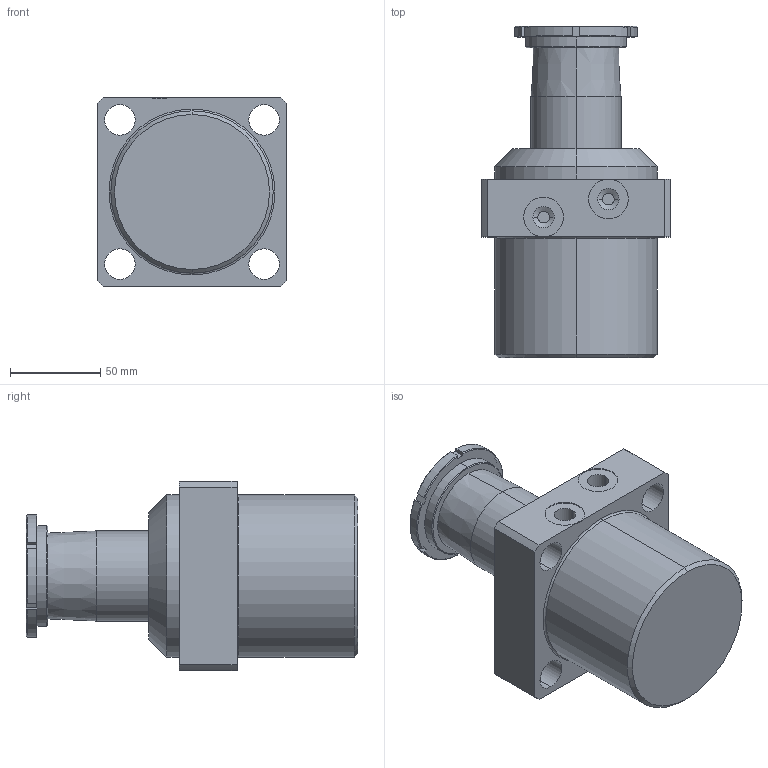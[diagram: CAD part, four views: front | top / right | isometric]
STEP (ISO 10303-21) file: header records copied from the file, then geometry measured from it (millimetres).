
FILE_DESCRIPTION (( 'STEP AP203' ), '1' );
FILE_NAME ('4110 626 629.STEP', '2016-01-28T11:36:42', ( '' ), ( '' ), 'SwSTEP 2.0', 'SolidWorks 2015', '' );
FILE_SCHEMA (( 'CONFIG_CONTROL_DESIGN' ));
Length unit declared in the file: millimetre
Products named in the file (1): 4110 626 629
Bounding box: 105 x 184 x 105 mm (x, y, z)
Volume: 981960.6 mm3; surface area: 79114.7 mm2
Topology: 1 solids, 2 shells, 112 faces, 278 edges, 176 vertices
Faces by surface type: cylinder 42, plane 34, cone 30, torus 6
Entity records: 3483 total; most frequent: CARTESIAN_POINT 663, DIRECTION 602, ORIENTED_EDGE 556, EDGE_CURVE 278, AXIS2_PLACEMENT_3D 235, VERTEX_POINT 176, VECTOR 132, LINE 132
